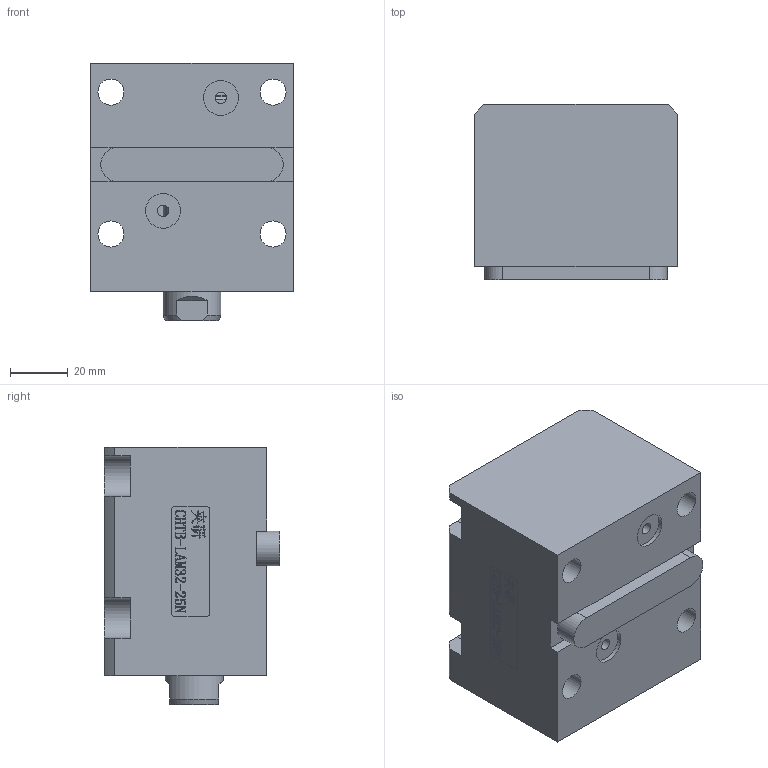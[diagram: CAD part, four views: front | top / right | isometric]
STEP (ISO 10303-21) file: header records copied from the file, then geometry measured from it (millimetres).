
FILE_DESCRIPTION(/* description */ (''),/* implementation_level */ '2;1');
FILE_NAME(/* name */ 'CHTB-LAM32-25N.stp',/* time_stamp */ '2022-04-29T16:07:42+08:00',/* author */ (''),/* organization */ (''),/* preprocessor_version */ 'ST-DEVELOPER v16.7',/* originating_system */ 'SIEMENS PLM Software NX 12.0',/* authorisation */ '');
FILE_SCHEMA (('AUTOMOTIVE_DESIGN { 1 0 10303 214 3 1 1 1 }'));
Length unit declared in the file: millimetre
Products named in the file (1): CHTB-LAM32-25N
Bounding box: 70 x 60.5 x 89 mm (x, y, z)
Volume: 279454.4 mm3; surface area: 58436.7 mm2
Topology: 3 solids, 3 shells, 468 faces, 1298 edges, 870 vertices
Faces by surface type: plane 305, extrusion 86, cylinder 47, torus 12, bspline 10, cone 8
Full cylindrical faces by diameter (mm): 3 x2, 4 x2, 9 x4, 10.5 x1, 12 x2, 20 x2, 24 x1, 24.5 x1, 26 x1, 32 x4, 38 x8, 40 x1
Entity records: 22284 total; most frequent: CARTESIAN_POINT 8621, ORIENTED_EDGE 2484, DIRECTION 1882, EDGE_CURVE 1242, VECTOR 972, LINE 886, VERTEX_POINT 862, EDGE_LOOP 545
